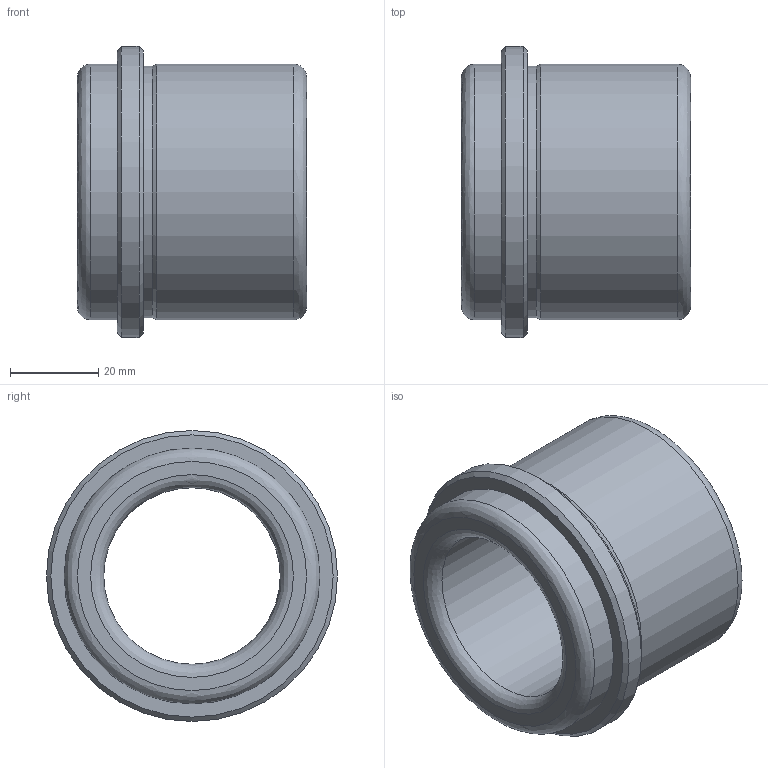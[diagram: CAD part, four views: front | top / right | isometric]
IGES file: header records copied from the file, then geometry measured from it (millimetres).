
Global section: file name: BEAG40-7.ipt; native system: Autodesk Inventor 2021; preprocessor: unknown; author: SM; date: 20211217.124622; units: millimetre
Bounding box: 52 x 66 x 66 mm (x, y, z)
Volume: 75097.2 mm3; surface area: 19554.9 mm2
Topology: 1 solids, 1 shells, 16 faces, 38 edges, 26 vertices
Faces by surface type: revolution 5, plane 4, cylinder 4, cone 3
Full cylindrical faces by diameter (mm): 57 x1, 58 x2, 66 x1
